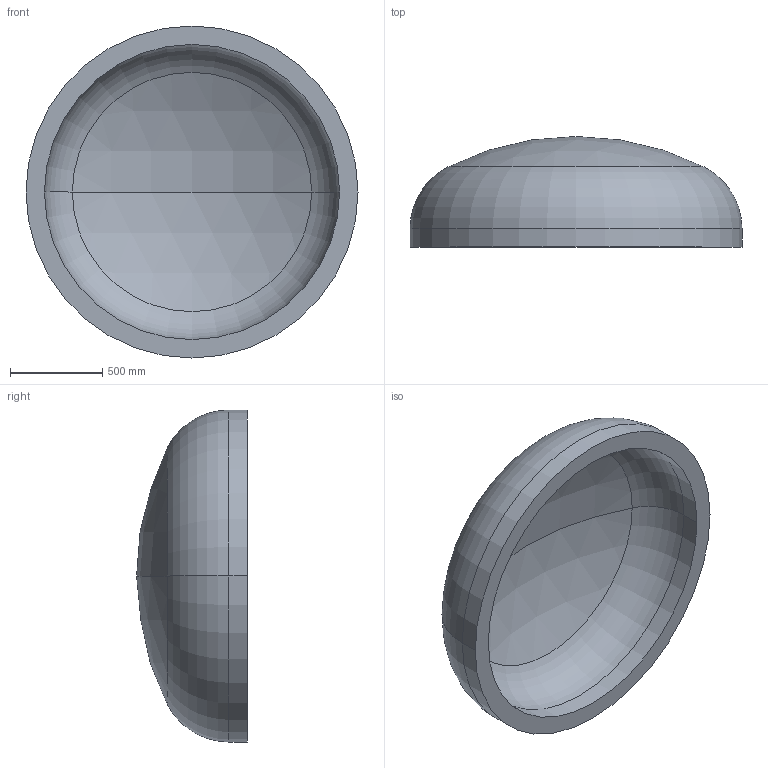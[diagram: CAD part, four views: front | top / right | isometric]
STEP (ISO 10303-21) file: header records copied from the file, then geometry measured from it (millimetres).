
FILE_DESCRIPTION (( 'STEP AP203' ), '1' );
FILE_NAME ('DIN 28013 Korbbogenform_-_Boden DIN 28013 - 1800 x 100 - I - s=100.step', '2016-07-01T12:45:22', ( '' ), ( '' ), 'SwSTEP 2.0', 'SolidWorks 2013', '' );
FILE_SCHEMA (( 'CONFIG_CONTROL_DESIGN' ));
Length unit declared in the file: millimetre
Products named in the file (1): DIN 28013 Korbbogenform_-_Boden DIN 28013 - 1800 x 100 - I - s=100
Bounding box: 1800 x 600 x 1800 mm (x, y, z)
Volume: 381128856.4 mm3; surface area: 8177589.9 mm2
Topology: 1 solids, 1 shells, 13 faces, 24 edges, 14 vertices
Faces by surface type: torus 4, cylinder 4, sphere 4, plane 1
Entity records: 407 total; most frequent: DIRECTION 72, CARTESIAN_POINT 52, ORIENTED_EDGE 48, AXIS2_PLACEMENT_3D 34, EDGE_CURVE 24, CIRCLE 20, VERTEX_POINT 14, EDGE_LOOP 14
